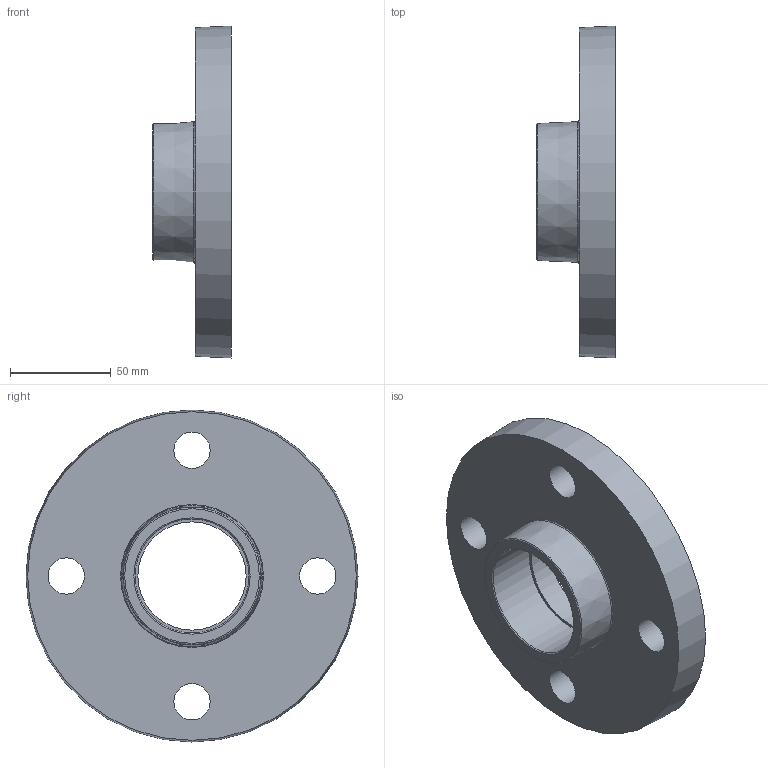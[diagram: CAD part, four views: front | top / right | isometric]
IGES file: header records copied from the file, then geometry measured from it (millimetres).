
Global section: file name: 059201020.ipt; native system: Autodesk Inventor 2015; preprocessor: unknown; author: KIM; date: 20171207.170013; units: millimetre
Bounding box: 39 x 165 x 165 mm (x, y, z)
Volume: 345837.2 mm3; surface area: 60488.4 mm2
Topology: 1 solids, 1 shells, 28 faces, 62 edges, 44 vertices
Faces by surface type: revolution 13, plane 10, cylinder 3, cone 2
Full cylindrical faces by diameter (mm): 56.606 x1, 59.906 x1, 63.206 x1
